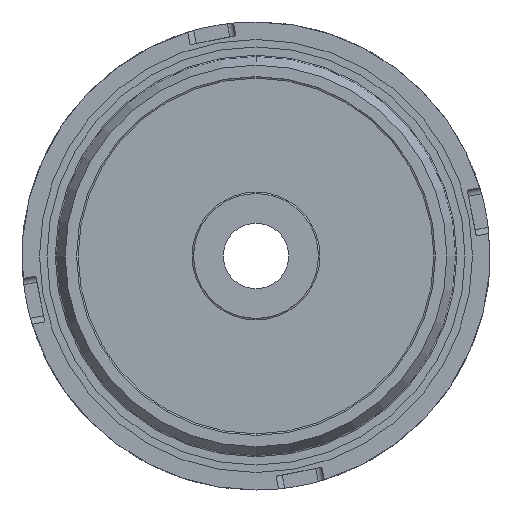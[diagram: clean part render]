
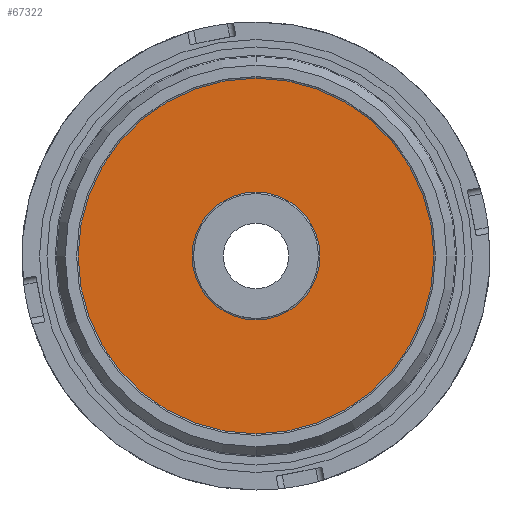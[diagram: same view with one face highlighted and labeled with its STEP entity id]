
A CAD part, front view. The second image highlights one B-rep face of the part: STEP entity #67322.
In plain terms, the highlighted planar face has unit normal (0, -1, 0).
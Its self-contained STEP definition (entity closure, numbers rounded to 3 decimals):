
#5169 = ORIENTED_EDGE ( 'NONE', *, *, #28958, .T. ) ;
#7268 = CARTESIAN_POINT ( 'NONE',  ( 0., 6., 20.5 ) ) ;
#12588 = DIRECTION ( 'NONE',  ( 0., 0., -1. ) ) ;
#15911 = FACE_BOUND ( 'NONE', #29442, .T. ) ;
#19960 = AXIS2_PLACEMENT_3D ( 'NONE', #23959, #60963, #29285 ) ;
#21779 = CARTESIAN_POINT ( 'NONE',  ( 0., 6., 0. ) ) ;
#22150 = ORIENTED_EDGE ( 'NONE', *, *, #41876, .T. ) ;
#22985 = PLANE ( 'NONE',  #28147 ) ;
#23145 = CIRCLE ( 'NONE', #56241, 20.5 ) ;
#23821 = VERTEX_POINT ( 'NONE', #66719 ) ;
#23959 = CARTESIAN_POINT ( 'NONE',  ( 0., 6., 0. ) ) ;
#24763 = DIRECTION ( 'NONE',  ( 0., 1., 0. ) ) ;
#26348 = VERTEX_POINT ( 'NONE', #42662 ) ;
#27046 = DIRECTION ( 'NONE',  ( 0., 0., -1. ) ) ;
#28147 = AXIS2_PLACEMENT_3D ( 'NONE', #33675, #44374, #12588 ) ;
#28958 = EDGE_CURVE ( 'NONE', #33974, #26348, #48474, .T. ) ;
#29270 = CARTESIAN_POINT ( 'NONE',  ( 0., 6., 0. ) ) ;
#29285 = DIRECTION ( 'NONE',  ( 0., 0., -1. ) ) ;
#29442 = EDGE_LOOP ( 'NONE', ( #22150, #61060 ) ) ;
#33675 = CARTESIAN_POINT ( 'NONE',  ( 0., 6., 0. ) ) ;
#33960 = CIRCLE ( 'NONE', #42546, 20.5 ) ;
#33974 = VERTEX_POINT ( 'NONE', #55424 ) ;
#34548 = ORIENTED_EDGE ( 'NONE', *, *, #63737, .T. ) ;
#34616 = DIRECTION ( 'NONE',  ( 0., 0., -1. ) ) ;
#37080 = VERTEX_POINT ( 'NONE', #7268 ) ;
#39710 = CIRCLE ( 'NONE', #19960, 57. ) ;
#41876 = EDGE_CURVE ( 'NONE', #23821, #37080, #23145, .T. ) ;
#42546 = AXIS2_PLACEMENT_3D ( 'NONE', #21779, #58766, #27046 ) ;
#42662 = CARTESIAN_POINT ( 'NONE',  ( 0., 6., -57. ) ) ;
#42784 = EDGE_CURVE ( 'NONE', #37080, #23821, #33960, .T. ) ;
#44150 = FACE_OUTER_BOUND ( 'NONE', #49307, .T. ) ;
#44374 = DIRECTION ( 'NONE',  ( 0., -1., 0. ) ) ;
#48474 = CIRCLE ( 'NONE', #56731, 57. ) ;
#49307 = EDGE_LOOP ( 'NONE', ( #34548, #5169 ) ) ;
#55424 = CARTESIAN_POINT ( 'NONE',  ( 0., 6., 57. ) ) ;
#56241 = AXIS2_PLACEMENT_3D ( 'NONE', #56547, #24763, #61771 ) ;
#56547 = CARTESIAN_POINT ( 'NONE',  ( 0., 6., 0. ) ) ;
#56731 = AXIS2_PLACEMENT_3D ( 'NONE', #29270, #66176, #34616 ) ;
#58766 = DIRECTION ( 'NONE',  ( 0., 1., 0. ) ) ;
#60963 = DIRECTION ( 'NONE',  ( 0., -1., 0. ) ) ;
#61060 = ORIENTED_EDGE ( 'NONE', *, *, #42784, .T. ) ;
#61771 = DIRECTION ( 'NONE',  ( 0., 0., -1. ) ) ;
#63737 = EDGE_CURVE ( 'NONE', #26348, #33974, #39710, .T. ) ;
#66176 = DIRECTION ( 'NONE',  ( 0., -1., 0. ) ) ;
#66719 = CARTESIAN_POINT ( 'NONE',  ( 0., 6., -20.5 ) ) ;
#67322 = ADVANCED_FACE ( 'NONE', ( #44150, #15911 ), #22985, .T. ) ;
